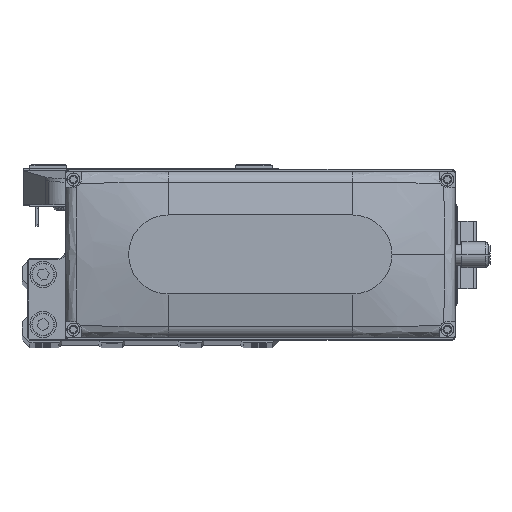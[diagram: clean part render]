
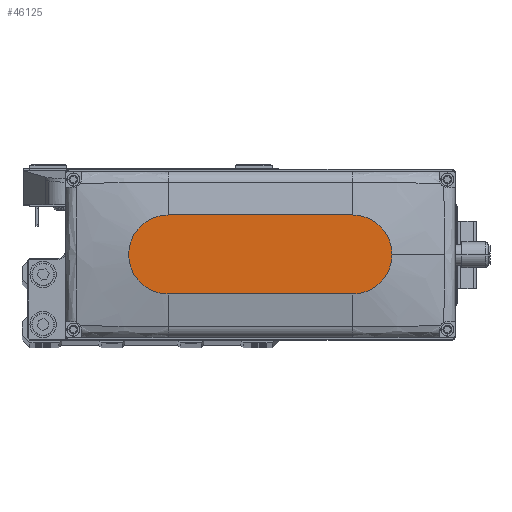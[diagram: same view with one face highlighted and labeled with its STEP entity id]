
A CAD part, top view. The second image highlights one B-rep face of the part: STEP entity #46125.
In plain terms, the highlighted planar face has unit normal (0, 0, 1).
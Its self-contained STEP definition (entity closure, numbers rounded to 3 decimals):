
#13 = DIRECTION ( 'NONE',  ( 1., 0., 0. ) ) ;
#1188 = EDGE_CURVE ( 'NONE', #1464, #36982, #11095, .T. ) ;
#1464 = VERTEX_POINT ( 'NONE', #35867 ) ;
#4065 = DIRECTION ( 'NONE',  ( 0., 0., 1. ) ) ;
#4081 = ORIENTED_EDGE ( 'NONE', *, *, #9931, .T. ) ;
#5204 = CIRCLE ( 'NONE', #32430, 15. ) ;
#6974 = CIRCLE ( 'NONE', #34196, 15. ) ;
#9931 = EDGE_CURVE ( 'NONE', #36982, #39123, #5204, .T. ) ;
#10337 = CARTESIAN_POINT ( 'NONE',  ( 0., 0., 35. ) ) ;
#11095 = LINE ( 'NONE', #25949, #43799 ) ;
#12032 = EDGE_CURVE ( 'NONE', #39123, #47824, #18506, .T. ) ;
#12475 = CARTESIAN_POINT ( 'NONE',  ( 35., 0., 35. ) ) ;
#13141 = CARTESIAN_POINT ( 'NONE',  ( -35., 0., 35. ) ) ;
#15734 = ORIENTED_EDGE ( 'NONE', *, *, #30877, .T. ) ;
#16058 = CARTESIAN_POINT ( 'NONE',  ( -35., -15., 35. ) ) ;
#16523 = AXIS2_PLACEMENT_3D ( 'NONE', #12475, #27334, #42186 ) ;
#18506 = LINE ( 'NONE', #33368, #19530 ) ;
#18925 = DIRECTION ( 'NONE',  ( 1., 0., 0. ) ) ;
#19530 = VECTOR ( 'NONE', #13, 1000. ) ;
#20980 = ORIENTED_EDGE ( 'NONE', *, *, #1188, .T. ) ;
#23897 = VERTEX_POINT ( 'NONE', #44738 ) ;
#24583 = ORIENTED_EDGE ( 'NONE', *, *, #38455, .T. ) ;
#25127 = CARTESIAN_POINT ( 'NONE',  ( 35., -15., 35. ) ) ;
#25184 = DIRECTION ( 'NONE',  ( 0., 0., 1. ) ) ;
#25949 = CARTESIAN_POINT ( 'NONE',  ( -35., 15., 35. ) ) ;
#26203 = ORIENTED_EDGE ( 'NONE', *, *, #12032, .T. ) ;
#27334 = DIRECTION ( 'NONE',  ( 0., 0., 1. ) ) ;
#28001 = DIRECTION ( 'NONE',  ( 0., 0., 1. ) ) ;
#28825 = FACE_OUTER_BOUND ( 'NONE', #38691, .T. ) ;
#30877 = EDGE_CURVE ( 'NONE', #47824, #23897, #6974, .T. ) ;
#32430 = AXIS2_PLACEMENT_3D ( 'NONE', #13141, #28001, #42854 ) ;
#33187 = CARTESIAN_POINT ( 'NONE',  ( -35., 15., 35. ) ) ;
#33368 = CARTESIAN_POINT ( 'NONE',  ( -35., -15., 35. ) ) ;
#34196 = AXIS2_PLACEMENT_3D ( 'NONE', #37414, #4065, #18925 ) ;
#35867 = CARTESIAN_POINT ( 'NONE',  ( 35., 15., 35. ) ) ;
#36371 = AXIS2_PLACEMENT_3D ( 'NONE', #10337, #25184, #40036 ) ;
#36982 = VERTEX_POINT ( 'NONE', #33187 ) ;
#37414 = CARTESIAN_POINT ( 'NONE',  ( 35., 0., 35. ) ) ;
#37513 = CIRCLE ( 'NONE', #16523, 15. ) ;
#38455 = EDGE_CURVE ( 'NONE', #23897, #1464, #37513, .T. ) ;
#38691 = EDGE_LOOP ( 'NONE', ( #20980, #4081, #26203, #15734, #24583 ) ) ;
#39123 = VERTEX_POINT ( 'NONE', #16058 ) ;
#40036 = DIRECTION ( 'NONE',  ( 1., 0., 0. ) ) ;
#40788 = DIRECTION ( 'NONE',  ( -1., 0., 0. ) ) ;
#42186 = DIRECTION ( 'NONE',  ( 1., 0., 0. ) ) ;
#42854 = DIRECTION ( 'NONE',  ( 1., 0., 0. ) ) ;
#43687 = PLANE ( 'NONE',  #36371 ) ;
#43799 = VECTOR ( 'NONE', #40788, 1000. ) ;
#44738 = CARTESIAN_POINT ( 'NONE',  ( 50., 0., 35. ) ) ;
#46125 = ADVANCED_FACE ( 'NONE', ( #28825 ), #43687, .T. ) ;
#47824 = VERTEX_POINT ( 'NONE', #25127 ) ;
